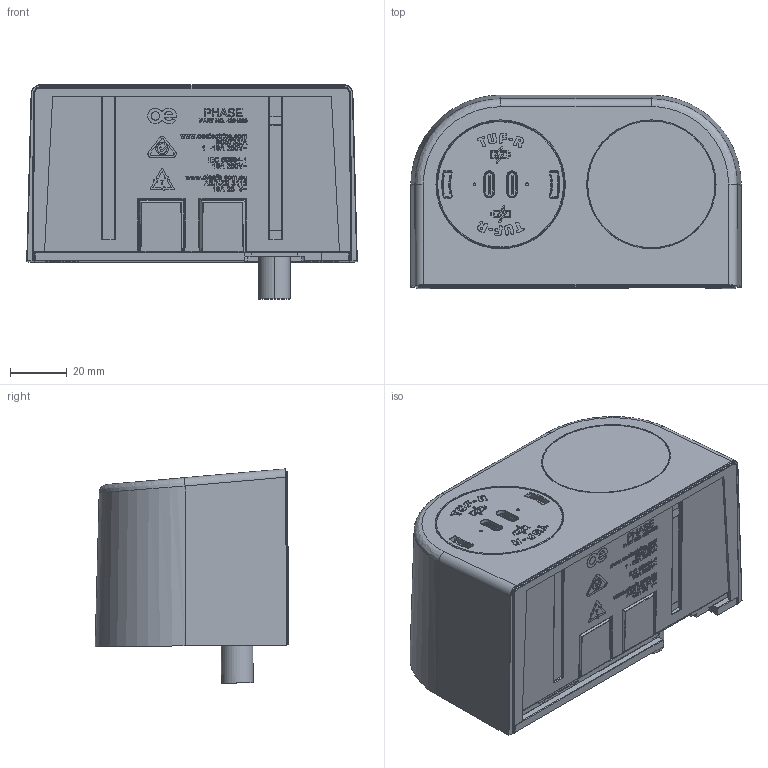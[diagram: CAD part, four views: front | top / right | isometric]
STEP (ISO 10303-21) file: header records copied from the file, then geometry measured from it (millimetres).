
FILE_DESCRIPTION (( 'STEP AP203' ), '1' );
FILE_NAME ('Phase_100W_2_Block.STEP', '2025-08-07T08:08:31', ( '' ), ( '' ), 'SwSTEP 2.0', 'SolidWorks 2024', '' );
FILE_SCHEMA (( 'CONFIG_CONTROL_DESIGN' ));
Products named in the file (1): Phase_100W_2_Block
Bounding box: 116.26 x 68.13 x 75.36 mm (x, y, z)
Surface area: 45126.4 mm2 (no closed solid volume)
Topology: 0 solids, 29 shells, 3503 faces, 9256 edges, 5994 vertices
Faces by surface type: plane 1893, bspline 797, cylinder 547, cone 126, torus 91, sphere 49
Entity records: 131770 total; most frequent: CARTESIAN_POINT 57060, ORIENTED_EDGE 18472, DIRECTION 10573, EDGE_CURVE 9239, VERTEX_POINT 5992, B_SPLINE_CURVE_WITH_KNOTS 4773, EDGE_LOOP 3774, AXIS2_PLACEMENT_3D 3599
